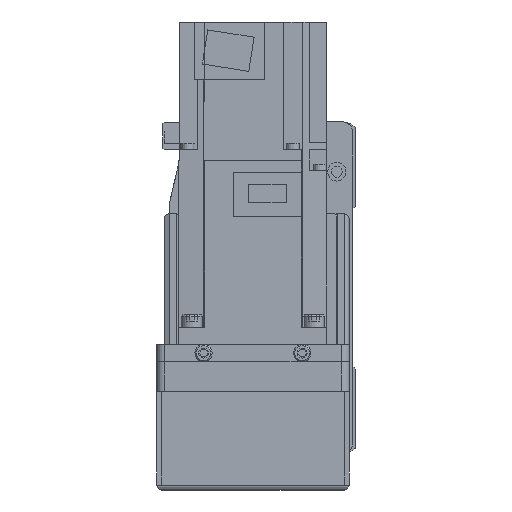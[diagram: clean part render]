
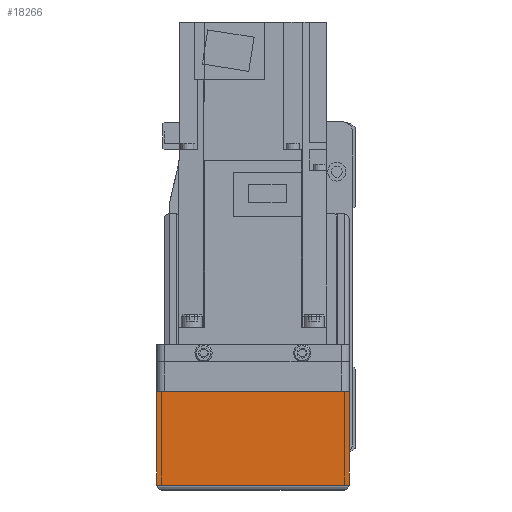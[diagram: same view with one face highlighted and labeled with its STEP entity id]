
A CAD part, left-side view. The second image highlights one B-rep face of the part: STEP entity #18266.
In plain terms, the highlighted planar face has unit normal (-1, 0, 0).
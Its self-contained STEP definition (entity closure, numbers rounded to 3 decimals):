
#2738=ORIENTED_EDGE('',*,*,#7341,.F.);
#2739=ORIENTED_EDGE('',*,*,#7342,.F.);
#2740=ORIENTED_EDGE('',*,*,#7343,.T.);
#2741=ORIENTED_EDGE('',*,*,#7344,.F.);
#7341=EDGE_CURVE('',#9741,#9732,#11626,.T.);
#7342=EDGE_CURVE('',#9758,#9741,#11627,.T.);
#7343=EDGE_CURVE('',#9758,#9759,#11628,.T.);
#7344=EDGE_CURVE('',#9732,#9759,#11629,.T.);
#9732=VERTEX_POINT('',#28044);
#9741=VERTEX_POINT('',#28062);
#9758=VERTEX_POINT('',#28110);
#9759=VERTEX_POINT('',#28112);
#11626=LINE('',#28108,#13259);
#11627=LINE('',#28109,#13260);
#11628=LINE('',#28111,#13261);
#11629=LINE('',#28113,#13262);
#13259=VECTOR('',#22504,1000.);
#13260=VECTOR('',#22505,1000.);
#13261=VECTOR('',#22506,1000.);
#13262=VECTOR('',#22507,1000.);
#14724=EDGE_LOOP('',(#2738,#2739,#2740,#2741));
#16199=FACE_BOUND('',#14724,.T.);
#17515=PLANE('',#19580);
#18266=ADVANCED_FACE('',(#16199),#17515,.F.);
#19580=AXIS2_PLACEMENT_3D('',#28107,#22502,#22503);
#22502=DIRECTION('',(1.,0.,0.));
#22503=DIRECTION('',(0.,0.,-1.));
#22504=DIRECTION('',(0.,-1.,0.));
#22505=DIRECTION('',(0.,0.,1.));
#22506=DIRECTION('',(0.,-1.,0.));
#22507=DIRECTION('',(0.,0.,-1.));
#28044=CARTESIAN_POINT('',(-158.,-39.,-12.1));
#28062=CARTESIAN_POINT('',(-158.,39.,-12.1));
#28107=CARTESIAN_POINT('',(-158.,36.,7.));
#28108=CARTESIAN_POINT('',(-158.,50.,-12.1));
#28109=CARTESIAN_POINT('',(-158.,39.,-50.));
#28110=CARTESIAN_POINT('',(-158.,39.,-50.));
#28111=CARTESIAN_POINT('',(-158.,40.,-50.));
#28112=CARTESIAN_POINT('',(-158.,-39.,-50.));
#28113=CARTESIAN_POINT('',(-158.,-39.,-12.1));
